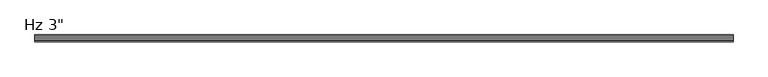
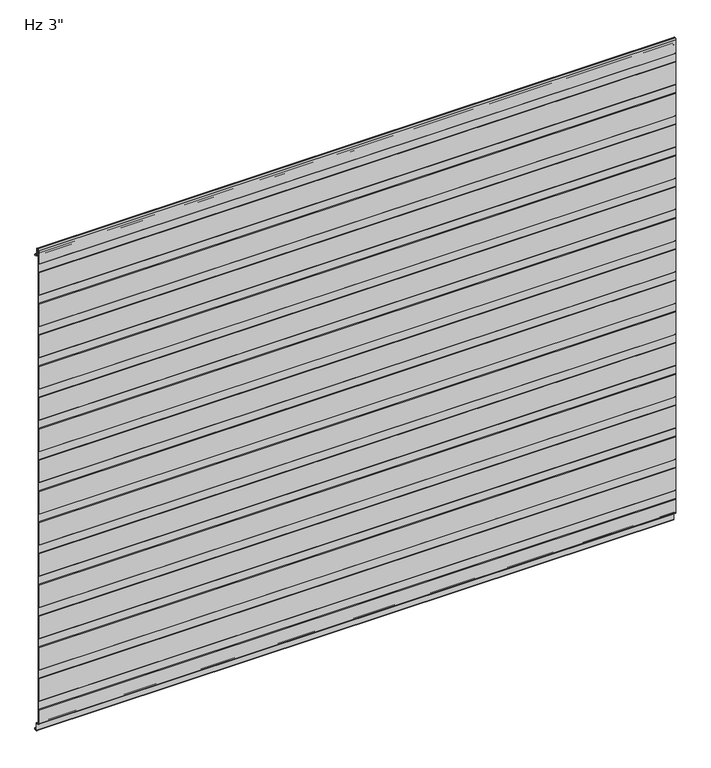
"""IFC4 building model written with IfcOpenShell, lengths in millimetres: plate geometry."""

from ifc_helpers import new_model, si_unit, frame, origin, place, context, project, spatial, polyline, circle_curve, source, transform, mapped, element, save
from ifc_brep_helpers import plane_surface, cylinder_surface, revolved_surface, advanced_brep


def plate_2009623e(model_context):
    return source(origin(), model_context, "Body", "AdvancedBrep", [
        advanced_brep(
        [(-730.0, -76.2, 966.9508592), (-730.0, -76.2, 1021.5303137), (-730.0, -75.0088405, 1022.6028385), (-730.0, -75.0088405, 1041.5009546), (-730.0, -76.2, 1042.5734794), (-730.0, -76.2, 1097.152934), (-730.0, -75.0088405, 1098.2254588), (-730.0, -75.0088405, 1117.1235749), (-730.0, -76.1999956, 1118.1960958), (-730.0, -76.1999956, 1150.8100652), (-730.0, -73.2227271, 1153.7873337), (-730.0, -72.1806285, 1153.7873337), (-730.0, -69.20336, 1150.8100652), (-730.0, -69.20336, 1136.6216801), (-730.0, -67.6154834, 1135.0338036), (-730.0, -63.2950653, 1135.0338036), (-730.0, -61.7065979, 1133.3929042), (-730.0, -61.7065979, 1131.0482432), (-730.0, -62.7060718, 1131.0482432), (-730.0, -62.7060718, 1133.4253365), (-730.0, -63.2950653, 1134.0338037), (-730.0, -67.6154834, 1134.0338037), (-730.0, -70.20336, 1136.6216801), (-730.0, -70.20336, 1150.8100652), (-730.0, -72.1806285, 1152.7873337), (-730.0, -73.2227271, 1152.7873337), (-730.0, -75.1999956, 1150.8100652), (-730.0, -75.1999956, 1118.6385351), (-730.0, -74.0088405, 1117.5660142), (-730.0, -74.0088405, 1097.7830195), (-730.0, -75.2, 1096.7104947), (-730.0, -75.2, 1043.0159187), (-730.0, -74.0088405, 1041.9433939), (-730.0, -74.0088405, 1022.1603992), (-730.0, -75.2, 1021.0878744), (-730.0, -75.2, 967.3932985), (-730.0, -74.0088405, 966.3207736), (-730.0, -74.0088405, 946.537779), (-730.0, -75.2, 945.4652541), (-730.0, -75.2, 891.7706782), (-730.0, -74.0088405, 890.6981534), (-730.0, -74.0088405, 870.9151587), (-730.0, -75.2, 869.8426339), (-730.0, -75.2, 816.148058), (-730.0, -74.0088405, 815.0755331), (-730.0, -74.0088405, 795.2925384), (-730.0, -75.2, 794.2200136), (-730.0, -75.2, 740.5254377), (-730.0, -74.0088405, 739.4529129), (-730.0, -74.0088405, 719.6699182), (-730.0, -75.2, 718.5973933), (-730.0, -75.2, 664.9028174), (-730.0, -74.0088405, 663.8302926), (-730.0, -74.0088405, 644.0472979), (-730.0, -75.2, 642.9747731), (-730.0, -75.2, 589.2801972), (-730.0, -74.0088405, 588.2076723), (-730.0, -74.0088405, 568.4246776), (-730.0, -75.2, 567.3521528), (-730.0, -75.2, 513.6575769), (-730.0, -74.0088405, 512.5850521), (-730.0, -74.0088405, 492.8020574), (-730.0, -75.2, 491.7295325), (-730.0, -75.2, 438.0349566), (-730.0, -74.0088405, 436.9624318), (-730.0, -74.0088405, 417.1794371), (-730.0, -75.2, 416.1069123), (-730.0, -75.2, 362.4123364), (-730.0, -74.0088405, 361.3398115), (-730.0, -74.0088405, 341.5568169), (-730.0, -75.2, 340.484292), (-730.0, -75.2, 286.7897161), (-730.0, -74.0088405, 285.7171913), (-730.0, -74.0088405, 265.9341966), (-730.0, -75.2, 264.8616718), (-730.0, -75.2, 211.1670958), (-730.0, -74.0088405, 210.094571), (-730.0, -74.0088405, 190.3115763), (-730.0, -75.2, 189.2390515), (-730.0, -75.2, 135.5444756), (-730.0, -74.0088405, 134.4719507), (-730.0, -74.0088405, 114.6889561), (-730.0, -75.2, 113.6164312), (-730.0, -75.2, 59.9218553), (-730.0, -74.0088405, 58.8493305), (-730.0, -74.0088405, 39.0663358), (-730.0, -75.2, 37.993811), (-730.0, -75.2, 5.82722), (-730.0, -73.2227096, 3.8499526), (-730.0, -70.9308258, 3.8499526), (-730.0, -66.9535573, -0.1273159), (-730.0, -66.9535573, -15.7237419), (-730.0, -66.3656807, -16.3116185), (-730.0, -63.294132, -16.3116185), (-730.0, -62.7062555, -15.7237419), (-730.0, -62.7062555, -13.3687064), (-730.0, -61.7062555, -13.3687064), (-730.0, -61.7062555, -15.7237419), (-730.0, -63.294132, -17.3116185), (-730.0, -66.3656807, -17.3116185), (-730.0, -67.9535573, -15.7237419), (-730.0, -67.9535573, -0.1273159), (-730.0, -70.9308258, 2.8499526), (-730.0, -73.2227096, 2.8499526), (-730.0, -76.1999782, 5.8272193), (-730.0, -76.2, 38.4362503), (-730.0, -75.0088405, 39.5087751), (-730.0, -75.0088405, 58.4068912), (-730.0, -76.2, 59.479416), (-730.0, -76.2, 114.0588705), (-730.0, -75.0088405, 115.1313954), (-730.0, -75.0088405, 134.0295114), (-730.0, -76.2, 135.1020363), (-730.0, -76.2, 189.6814908), (-730.0, -75.0088405, 190.7540156), (-730.0, -75.0088405, 209.6521317), (-730.0, -76.2, 210.7246565), (-730.0, -76.2, 265.3041111), (-730.0, -75.0088405, 266.3766359), (-730.0, -75.0088405, 285.274752), (-730.0, -76.2, 286.3472768), (-730.0, -76.2, 340.9267313), (-730.0, -75.0088405, 341.9992562), (-730.0, -75.0088405, 360.8973722), (-730.0, -76.2, 361.9698971), (-730.0, -76.2, 416.5493516), (-730.0, -75.0088405, 417.6218764), (-730.0, -75.0088405, 436.5199925), (-730.0, -76.2, 437.5925173), (-730.0, -76.2, 492.1719719), (-730.0, -75.0088405, 493.2444967), (-730.0, -75.0088405, 512.1426127), (-730.0, -76.2, 513.2151376), (-730.0, -76.2, 567.7945921), (-730.0, -75.0088405, 568.867117), (-730.0, -75.0088405, 587.765233), (-730.0, -76.2, 588.8377578), (-730.0, -76.2, 643.4172124), (-730.0, -75.0088405, 644.4897372), (-730.0, -75.0088405, 663.3878533), (-730.0, -76.2, 664.4603781), (-730.0, -76.2, 719.0398327), (-730.0, -75.0088405, 720.1123575), (-730.0, -75.0088405, 739.0104735), (-730.0, -76.2, 740.0829984), (-730.0, -76.2, 794.6624529), (-730.0, -75.0088405, 795.7349778), (-730.0, -75.0088405, 814.6330938), (-730.0, -76.2, 815.7056186), (-730.0, -76.2, 870.2850732), (-730.0, -75.0088405, 871.357598), (-730.0, -75.0088405, 890.2557141), (-730.0, -76.2, 891.3282389), (-730.0, -76.2, 945.9076934), (-730.0, -75.0088405, 946.9802183), (-730.0, -75.0088405, 965.8783343), (730.0, -76.2, 966.9508592), (730.0, -75.0088405, 965.8783343), (730.0, -75.0088405, 946.9802183), (730.0, -76.2, 945.9076934), (730.0, -76.2, 891.3282389), (730.0, -75.0088405, 890.2557141), (730.0, -75.0088405, 871.357598), (730.0, -76.2, 870.2850732), (730.0, -76.2, 815.7056186), (730.0, -75.0088405, 814.6330938), (730.0, -75.0088405, 795.7349778), (730.0, -76.2, 794.6624529), (730.0, -76.2, 740.0829984), (730.0, -75.0088405, 739.0104735), (730.0, -75.0088405, 720.1123575), (730.0, -76.2, 719.0398327), (730.0, -76.2, 664.4603781), (730.0, -75.0088405, 663.3878533), (730.0, -75.0088405, 644.4897372), (730.0, -76.2, 643.4172124), (730.0, -76.2, 588.8377578), (730.0, -75.0088405, 587.765233), (730.0, -75.0088405, 568.867117), (730.0, -76.2, 567.7945921), (730.0, -76.2, 513.2151376), (730.0, -75.0088405, 512.1426127), (730.0, -75.0088405, 493.2444967), (730.0, -76.2, 492.1719719), (730.0, -76.2, 437.5925173), (730.0, -75.0088405, 436.5199925), (730.0, -75.0088405, 417.6218764), (730.0, -76.2, 416.5493516), (730.0, -76.2, 361.9698971), (730.0, -75.0088405, 360.8973722), (730.0, -75.0088405, 341.9992562), (730.0, -76.2, 340.9267313), (730.0, -76.2, 286.3472768), (730.0, -75.0088405, 285.274752), (730.0, -75.0088405, 266.3766359), (730.0, -76.2, 265.3041111), (730.0, -76.2, 210.7246565), (730.0, -75.0088405, 209.6521317), (730.0, -75.0088405, 190.7540156), (730.0, -76.2, 189.6814908), (730.0, -76.2, 135.1020363), (730.0, -75.0088405, 134.0295114), (730.0, -75.0088405, 115.1313954), (730.0, -76.2, 114.0588705), (730.0, -76.2, 59.479416), (730.0, -75.0088405, 58.4068912), (730.0, -75.0088405, 39.5087751), (730.0, -76.2, 38.4362503), (730.0, -76.2, 5.8272193), (730.0, -73.2227096, 2.8499526), (730.0, -70.9308258, 2.8499526), (730.0, -67.9535573, -0.1273159), (730.0, -67.9535573, -15.7237419), (730.0, -66.3656807, -17.3116185), (730.0, -63.294132, -17.3116185), (730.0, -61.7062555, -15.7237419), (730.0, -61.7062555, -13.3687064), (730.0, -62.7062555, -13.3687064), (730.0, -62.7062555, -15.7237419), (730.0, -63.294132, -16.3116185), (730.0, -66.3656807, -16.3116185), (730.0, -66.9535573, -15.7237419), (730.0, -66.9535573, -0.1273159), (730.0, -70.9308258, 3.8499526), (730.0, -73.2227096, 3.8499526), (730.0, -75.1999782, 5.82722), (730.0, -75.2, 37.993811), (730.0, -74.0088405, 39.0663358), (730.0, -74.0088405, 58.8493305), (730.0, -75.2, 59.9218553), (730.0, -75.2, 113.6164312), (730.0, -74.0088405, 114.6889561), (730.0, -74.0088405, 134.4719507), (730.0, -75.2, 135.5444756), (730.0, -75.2, 189.2390515), (730.0, -74.0088405, 190.3115763), (730.0, -74.0088405, 210.094571), (730.0, -75.2, 211.1670958), (730.0, -75.2, 264.8616718), (730.0, -74.0088405, 265.9341966), (730.0, -74.0088405, 285.7171913), (730.0, -75.2, 286.7897161), (730.0, -75.2, 340.484292), (730.0, -74.0088405, 341.5568169), (730.0, -74.0088405, 361.3398115), (730.0, -75.2, 362.4123364), (730.0, -75.2, 416.1069123), (730.0, -74.0088405, 417.1794371), (730.0, -74.0088405, 436.9624318), (730.0, -75.2, 438.0349566), (730.0, -75.2, 491.7295325), (730.0, -74.0088405, 492.8020574), (730.0, -74.0088405, 512.5850521), (730.0, -75.2, 513.6575769), (730.0, -75.2, 567.3521528), (730.0, -74.0088405, 568.4246776), (730.0, -74.0088405, 588.2076723), (730.0, -75.2, 589.2801972), (730.0, -75.2, 642.9747731), (730.0, -74.0088405, 644.0472979), (730.0, -74.0088405, 663.8302926), (730.0, -75.2, 664.9028174), (730.0, -75.2, 718.5973933), (730.0, -74.0088405, 719.6699182), (730.0, -74.0088405, 739.4529129), (730.0, -75.2, 740.5254377), (730.0, -75.2, 794.2200136), (730.0, -74.0088405, 795.2925384), (730.0, -74.0088405, 815.0755331), (730.0, -75.2, 816.148058), (730.0, -75.2, 869.8426339), (730.0, -74.0088405, 870.9151587), (730.0, -74.0088405, 890.6981534), (730.0, -75.2, 891.7706782), (730.0, -75.2, 945.4652541), (730.0, -74.0088405, 946.537779), (730.0, -74.0088405, 966.3207736), (730.0, -75.2, 967.3932985), (730.0, -75.2, 1021.0878744), (730.0, -74.0088405, 1022.1603992), (730.0, -74.0088405, 1041.9433939), (730.0, -75.2, 1043.0159187), (730.0, -75.2, 1096.7104947), (730.0, -74.0088405, 1097.7830195), (730.0, -74.0088405, 1117.5660142), (730.0, -75.1999956, 1118.6385351), (730.0, -75.1999956, 1150.8100652), (730.0, -73.2227271, 1152.7873337), (730.0, -72.1806285, 1152.7873337), (730.0, -70.20336, 1150.8100652), (730.0, -70.20336, 1136.6216801), (730.0, -67.6154834, 1134.0338036), (730.0, -63.2950653, 1134.0338037), (730.0, -62.7060718, 1133.4253365), (730.0, -62.7060718, 1131.0482432), (730.0, -61.7065979, 1131.0482432), (730.0, -61.7065979, 1133.3929042), (730.0, -63.2950653, 1135.0338037), (730.0, -67.6154834, 1135.0338036), (730.0, -69.20336, 1136.6216801), (730.0, -69.20336, 1150.8100652), (730.0, -72.1806285, 1153.7873337), (730.0, -73.2227271, 1153.7873337), (730.0, -76.1999956, 1150.8100652), (730.0, -76.1999956, 1118.1960958), (730.0, -75.0088405, 1117.1235749), (730.0, -75.0088405, 1098.2254588), (730.0, -76.2, 1097.152934), (730.0, -76.2, 1042.5734794), (730.0, -75.0088405, 1041.5009546), (730.0, -75.0088405, 1022.6028385), (730.0, -76.2, 1021.5303137)],
        [
            (0, 1),
            (1, 2),
            (2, 3),
            (3, 4),
            (4, 5),
            (5, 6),
            (6, 7),
            (7, 8),
            (8, 9),
            (9, 10, circle_curve(frame((-730.0, -73.2227271, 1150.8100652), z_axis=(-1.0, 0.0, 0.0), x_axis=(0.0, 0.0, -1.0)), 2.9772685)),
            (10, 11),
            (11, 12, circle_curve(frame((-730.0, -72.1806285, 1150.8100652), z_axis=(-1.0, 0.0, 0.0), x_axis=(0.0, 0.0, -1.0)), 2.9772685)),
            (12, 13),
            (13, 14, circle_curve(frame((-730.0, -67.6154834, 1136.6216801), z_axis=(1.0, 0.0, 0.0), x_axis=(0.0, 0.0, -1.0)), 1.5878765)),
            (14, 15),
            (15, 16, circle_curve(frame((-730.0, -63.2950653, 1133.4444985), z_axis=(-1.0, 0.0, 0.0), x_axis=(0.0, 0.0, -1.0)), 1.5893052)),
            (16, 17),
            (17, 18),
            (18, 19),
            (19, 20, circle_curve(frame((-730.0, -63.2950653, 1133.4444985), z_axis=(1.0, 0.0, 0.0), x_axis=(0.0, 0.0, -1.0)), 0.5893052)),
            (20, 21),
            (21, 22, circle_curve(frame((-730.0, -67.6154834, 1136.6216801), z_axis=(-1.0, 0.0, 0.0), x_axis=(0.0, 0.0, -1.0)), 2.5878765)),
            (22, 23),
            (23, 24, circle_curve(frame((-730.0, -72.1806285, 1150.8100652), z_axis=(1.0, 0.0, 0.0), x_axis=(0.0, 0.0, -1.0)), 1.9772685)),
            (24, 25),
            (25, 26, circle_curve(frame((-730.0, -73.2227271, 1150.8100652), z_axis=(1.0, 0.0, 0.0), x_axis=(0.0, 0.0, -1.0)), 1.9772685)),
            (26, 27),
            (27, 28),
            (28, 29),
            (29, 30),
            (30, 31),
            (31, 32),
            (32, 33),
            (33, 34),
            (34, 35),
            (35, 36),
            (36, 37),
            (37, 38),
            (38, 39),
            (39, 40),
            (40, 41),
            (41, 42),
            (42, 43),
            (43, 44),
            (44, 45),
            (45, 46),
            (46, 47),
            (47, 48),
            (48, 49),
            (49, 50),
            (50, 51),
            (51, 52),
            (52, 53),
            (53, 54),
            (54, 55),
            (55, 56),
            (56, 57),
            (57, 58),
            (58, 59),
            (59, 60),
            (60, 61),
            (61, 62),
            (62, 63),
            (63, 64),
            (64, 65),
            (65, 66),
            (66, 67),
            (67, 68),
            (68, 69),
            (69, 70),
            (70, 71),
            (71, 72),
            (72, 73),
            (73, 74),
            (74, 75),
            (75, 76),
            (76, 77),
            (77, 78),
            (78, 79),
            (79, 80),
            (80, 81),
            (81, 82),
            (82, 83),
            (83, 84),
            (84, 85),
            (85, 86),
            (86, 87),
            (87, 88, circle_curve(frame((-730.0, -73.2227096, 5.8272212), z_axis=(1.0, 0.0, 0.0), x_axis=(0.0, 0.0, -1.0)), 1.9772685)),
            (88, 89),
            (89, 90, circle_curve(frame((-730.0, -70.9308258, -0.1273159), z_axis=(-1.0, 0.0, 0.0), x_axis=(0.0, 0.0, -1.0)), 3.9772685)),
            (90, 91),
            (91, 92, circle_curve(frame((-730.0, -66.3656807, -15.7237419), z_axis=(1.0, 0.0, 0.0), x_axis=(0.0, 0.0, -1.0)), 0.5878765)),
            (92, 93),
            (93, 94, circle_curve(frame((-730.0, -63.294132, -15.7237419), z_axis=(1.0, 0.0, 0.0), x_axis=(0.0, 0.0, -1.0)), 0.5878765)),
            (94, 95),
            (95, 96),
            (96, 97),
            (97, 98, circle_curve(frame((-730.0, -63.294132, -15.7237419), z_axis=(-1.0, 0.0, 0.0), x_axis=(0.0, 0.0, -1.0)), 1.5878765)),
            (98, 99),
            (99, 100, circle_curve(frame((-730.0, -66.3656807, -15.7237419), z_axis=(-1.0, 0.0, 0.0), x_axis=(0.0, 0.0, -1.0)), 1.5878765)),
            (100, 101),
            (101, 102, circle_curve(frame((-730.0, -70.9308258, -0.1273159), z_axis=(1.0, 0.0, 0.0), x_axis=(0.0, 0.0, -1.0)), 2.9772685)),
            (102, 103),
            (103, 104, circle_curve(frame((-730.0, -73.2227096, 5.8272211), z_axis=(-1.0, 0.0, 0.0), x_axis=(0.0, 0.0, -1.0)), 2.9772685)),
            (104, 105),
            (105, 106),
            (106, 107),
            (107, 108),
            (108, 109),
            (109, 110),
            (110, 111),
            (111, 112),
            (112, 113),
            (113, 114),
            (114, 115),
            (115, 116),
            (116, 117),
            (117, 118),
            (118, 119),
            (119, 120),
            (120, 121),
            (121, 122),
            (122, 123),
            (123, 124),
            (124, 125),
            (125, 126),
            (126, 127),
            (127, 128),
            (128, 129),
            (129, 130),
            (130, 131),
            (131, 132),
            (132, 133),
            (133, 134),
            (134, 135),
            (135, 136),
            (136, 137),
            (137, 138),
            (138, 139),
            (139, 140),
            (140, 141),
            (141, 142),
            (142, 143),
            (143, 144),
            (144, 145),
            (145, 146),
            (146, 147),
            (147, 148),
            (148, 149),
            (149, 150),
            (150, 151),
            (151, 152),
            (152, 153),
            (153, 154),
            (154, 155),
            (155, 0),
            (156, 157),
            (157, 158),
            (158, 159),
            (159, 160),
            (160, 161),
            (161, 162),
            (162, 163),
            (163, 164),
            (164, 165),
            (165, 166),
            (166, 167),
            (167, 168),
            (168, 169),
            (169, 170),
            (170, 171),
            (171, 172),
            (172, 173),
            (173, 174),
            (174, 175),
            (175, 176),
            (176, 177),
            (177, 178),
            (178, 179),
            (179, 180),
            (180, 181),
            (181, 182),
            (182, 183),
            (183, 184),
            (184, 185),
            (185, 186),
            (186, 187),
            (187, 188),
            (188, 189),
            (189, 190),
            (190, 191),
            (191, 192),
            (192, 193),
            (193, 194),
            (194, 195),
            (195, 196),
            (196, 197),
            (197, 198),
            (198, 199),
            (199, 200),
            (200, 201),
            (201, 202),
            (202, 203),
            (203, 204),
            (204, 205),
            (205, 206),
            (206, 207),
            (207, 208),
            (208, 209, circle_curve(frame((730.0, -73.2227096, 5.8272211), z_axis=(1.0, 0.0, 0.0), x_axis=(0.0, 0.0, -1.0)), 2.9772685)),
            (209, 210),
            (210, 211, circle_curve(frame((730.0, -70.9308258, -0.1273159), z_axis=(-1.0, 0.0, 0.0), x_axis=(0.0, 0.0, -1.0)), 2.9772685)),
            (211, 212),
            (212, 213, circle_curve(frame((730.0, -66.3656807, -15.7237419), z_axis=(1.0, 0.0, 0.0), x_axis=(0.0, 0.0, -1.0)), 1.5878765)),
            (213, 214),
            (214, 215, circle_curve(frame((730.0, -63.294132, -15.7237419), z_axis=(1.0, 0.0, 0.0), x_axis=(0.0, 0.0, -1.0)), 1.5878765)),
            (215, 216),
            (216, 217),
            (217, 218),
            (218, 219, circle_curve(frame((730.0, -63.294132, -15.7237419), z_axis=(-1.0, 0.0, 0.0), x_axis=(0.0, 0.0, -1.0)), 0.5878765)),
            (219, 220),
            (220, 221, circle_curve(frame((730.0, -66.3656807, -15.7237419), z_axis=(-1.0, 0.0, 0.0), x_axis=(0.0, 0.0, -1.0)), 0.5878765)),
            (221, 222),
            (222, 223, circle_curve(frame((730.0, -70.9308258, -0.1273159), z_axis=(1.0, 0.0, 0.0), x_axis=(0.0, 0.0, -1.0)), 3.9772685)),
            (223, 224),
            (224, 225, circle_curve(frame((730.0, -73.2227096, 5.8272212), z_axis=(-1.0, 0.0, 0.0), x_axis=(0.0, 0.0, -1.0)), 1.9772685)),
            (225, 226),
            (226, 227),
            (227, 228),
            (228, 229),
            (229, 230),
            (230, 231),
            (231, 232),
            (232, 233),
            (233, 234),
            (234, 235),
            (235, 236),
            (236, 237),
            (237, 238),
            (238, 239),
            (239, 240),
            (240, 241),
            (241, 242),
            (242, 243),
            (243, 244),
            (244, 245),
            (245, 246),
            (246, 247),
            (247, 248),
            (248, 249),
            (249, 250),
            (250, 251),
            (251, 252),
            (252, 253),
            (253, 254),
            (254, 255),
            (255, 256),
            (256, 257),
            (257, 258),
            (258, 259),
            (259, 260),
            (260, 261),
            (261, 262),
            (262, 263),
            (263, 264),
            (264, 265),
            (265, 266),
            (266, 267),
            (267, 268),
            (268, 269),
            (269, 270),
            (270, 271),
            (271, 272),
            (272, 273),
            (273, 274),
            (274, 275),
            (275, 276),
            (276, 277),
            (277, 278),
            (278, 279),
            (279, 280),
            (280, 281),
            (281, 282),
            (282, 283),
            (283, 284),
            (284, 285),
            (285, 286),
            (286, 287, circle_curve(frame((730.0, -73.2227271, 1150.8100652), z_axis=(-1.0, 0.0, 0.0), x_axis=(0.0, 0.0, -1.0)), 1.9772685)),
            (287, 288),
            (288, 289, circle_curve(frame((730.0, -72.1806285, 1150.8100652), z_axis=(-1.0, 0.0, 0.0), x_axis=(0.0, 0.0, -1.0)), 1.9772685)),
            (289, 290),
            (290, 291, circle_curve(frame((730.0, -67.6154834, 1136.6216801), z_axis=(1.0, 0.0, 0.0), x_axis=(0.0, 0.0, -1.0)), 2.5878765)),
            (291, 292),
            (292, 293, circle_curve(frame((730.0, -63.2950653, 1133.4444985), z_axis=(-1.0, 0.0, 0.0), x_axis=(0.0, 0.0, -1.0)), 0.5893052)),
            (293, 294),
            (294, 295),
            (295, 296),
            (296, 297, circle_curve(frame((730.0, -63.2950653, 1133.4444985), z_axis=(1.0, 0.0, 0.0), x_axis=(0.0, 0.0, -1.0)), 1.5893052)),
            (297, 298),
            (298, 299, circle_curve(frame((730.0, -67.6154834, 1136.6216801), z_axis=(-1.0, 0.0, 0.0), x_axis=(0.0, 0.0, -1.0)), 1.5878765)),
            (299, 300),
            (300, 301, circle_curve(frame((730.0, -72.1806285, 1150.8100652), z_axis=(1.0, 0.0, 0.0), x_axis=(0.0, 0.0, -1.0)), 2.9772685)),
            (301, 302),
            (302, 303, circle_curve(frame((730.0, -73.2227271, 1150.8100652), z_axis=(1.0, 0.0, 0.0), x_axis=(0.0, 0.0, -1.0)), 2.9772685)),
            (303, 304),
            (304, 305),
            (305, 306),
            (306, 307),
            (307, 308),
            (308, 309),
            (309, 310),
            (310, 311),
            (311, 156),
            (155, 157),
            (156, 0),
            (154, 158),
            (153, 159),
            (152, 160),
            (151, 161),
            (150, 162),
            (149, 163),
            (148, 164),
            (147, 165),
            (146, 166),
            (145, 167),
            (144, 168),
            (143, 169),
            (142, 170),
            (141, 171),
            (140, 172),
            (139, 173),
            (138, 174),
            (137, 175),
            (136, 176),
            (135, 177),
            (134, 178),
            (133, 179),
            (132, 180),
            (131, 181),
            (130, 182),
            (129, 183),
            (128, 184),
            (127, 185),
            (126, 186),
            (125, 187),
            (124, 188),
            (123, 189),
            (122, 190),
            (121, 191),
            (120, 192),
            (119, 193),
            (118, 194),
            (117, 195),
            (116, 196),
            (115, 197),
            (114, 198),
            (113, 199),
            (112, 200),
            (111, 201),
            (110, 202),
            (109, 203),
            (108, 204),
            (107, 205),
            (106, 206),
            (105, 207),
            (104, 208),
            (103, 209),
            (102, 210),
            (101, 211),
            (100, 212),
            (99, 213),
            (98, 214),
            (97, 215),
            (96, 216),
            (95, 217),
            (94, 218),
            (93, 219),
            (92, 220),
            (91, 221),
            (90, 222),
            (89, 223),
            (88, 224),
            (87, 225),
            (86, 226),
            (85, 227),
            (84, 228),
            (83, 229),
            (82, 230),
            (81, 231),
            (80, 232),
            (79, 233),
            (78, 234),
            (77, 235),
            (76, 236),
            (75, 237),
            (74, 238),
            (73, 239),
            (72, 240),
            (71, 241),
            (70, 242),
            (69, 243),
            (68, 244),
            (67, 245),
            (66, 246),
            (65, 247),
            (64, 248),
            (63, 249),
            (62, 250),
            (61, 251),
            (60, 252),
            (59, 253),
            (58, 254),
            (57, 255),
            (56, 256),
            (55, 257),
            (54, 258),
            (53, 259),
            (52, 260),
            (51, 261),
            (50, 262),
            (49, 263),
            (48, 264),
            (47, 265),
            (46, 266),
            (45, 267),
            (44, 268),
            (43, 269),
            (42, 270),
            (41, 271),
            (40, 272),
            (39, 273),
            (38, 274),
            (37, 275),
            (36, 276),
            (35, 277),
            (34, 278),
            (33, 279),
            (32, 280),
            (31, 281),
            (30, 282),
            (29, 283),
            (28, 284),
            (27, 285),
            (26, 286),
            (25, 287),
            (24, 288),
            (23, 289),
            (22, 290),
            (21, 291),
            (20, 292),
            (19, 293),
            (18, 294),
            (17, 295),
            (16, 296),
            (15, 297),
            (14, 298),
            (13, 299),
            (12, 300),
            (11, 301),
            (10, 302),
            (9, 303),
            (8, 304),
            (7, 305),
            (6, 306),
            (5, 307),
            (4, 308),
            (3, 309),
            (2, 310),
            (1, 311),
        ],
        [
            plane_surface(frame((-730.0, -76.2, 576.2625), z_axis=(-1.0, 0.0, 0.0), x_axis=(0.0, -1.0, 0.0))),
            plane_surface(frame((730.0, -76.2, 576.2625), z_axis=(1.0, 0.0, 0.0), x_axis=(0.0, -1.0, 0.0))),
            plane_surface(frame((-730.0, -76.2, 966.9508592), z_axis=(0.0, -0.6691306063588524, -0.7431448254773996), x_axis=(1.0, 0.0, 0.0))),
            plane_surface(frame((-730.0, -75.0088405, 965.8783343), z_axis=(0.0, -1.0, 0.0), x_axis=(1.0, 0.0, 0.0))),
            plane_surface(frame((-730.0, -75.0088405, 946.9802183), z_axis=(0.0, -0.6691306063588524, 0.7431448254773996), x_axis=(1.0, 0.0, 0.0))),
            plane_surface(frame((-730.0, -76.2, 945.9076934), z_axis=(0.0, -1.0, 0.0), x_axis=(1.0, 0.0, 0.0))),
            plane_surface(frame((-730.0, -76.2, 891.3282389), z_axis=(0.0, -0.6691306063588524, -0.7431448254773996), x_axis=(1.0, 0.0, 0.0))),
            plane_surface(frame((-730.0, -75.0088405, 890.2557141), z_axis=(0.0, -1.0, 0.0), x_axis=(1.0, 0.0, 0.0))),
            plane_surface(frame((-730.0, -75.0088405, 871.357598), z_axis=(0.0, -0.6691306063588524, 0.7431448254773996), x_axis=(1.0, 0.0, 0.0))),
            plane_surface(frame((-730.0, -76.2, 870.2850732), z_axis=(0.0, -1.0, 0.0), x_axis=(1.0, 0.0, 0.0))),
            plane_surface(frame((-730.0, -76.2, 815.7056186), z_axis=(0.0, -0.6691306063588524, -0.7431448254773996), x_axis=(1.0, 0.0, 0.0))),
            plane_surface(frame((-730.0, -75.0088405, 814.6330938), z_axis=(0.0, -1.0, 0.0), x_axis=(1.0, 0.0, 0.0))),
            plane_surface(frame((-730.0, -75.0088405, 795.7349778), z_axis=(0.0, -0.6691306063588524, 0.7431448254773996), x_axis=(1.0, 0.0, 0.0))),
            plane_surface(frame((-730.0, -76.2, 794.6624529), z_axis=(0.0, -1.0, 0.0), x_axis=(1.0, 0.0, 0.0))),
            plane_surface(frame((-730.0, -76.2, 740.0829984), z_axis=(0.0, -0.6691306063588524, -0.7431448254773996), x_axis=(1.0, 0.0, 0.0))),
            plane_surface(frame((-730.0, -75.0088405, 739.0104735), z_axis=(0.0, -1.0, 0.0), x_axis=(1.0, 0.0, 0.0))),
            plane_surface(frame((-730.0, -75.0088405, 720.1123575), z_axis=(0.0, -0.6691306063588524, 0.7431448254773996), x_axis=(1.0, 0.0, 0.0))),
            plane_surface(frame((-730.0, -76.2, 719.0398327), z_axis=(0.0, -1.0, 0.0), x_axis=(1.0, 0.0, 0.0))),
            plane_surface(frame((-730.0, -76.2, 664.4603781), z_axis=(0.0, -0.6691306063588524, -0.7431448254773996), x_axis=(1.0, 0.0, 0.0))),
            plane_surface(frame((-730.0, -75.0088405, 663.3878533), z_axis=(0.0, -1.0, 0.0), x_axis=(1.0, 0.0, 0.0))),
            plane_surface(frame((-730.0, -75.0088405, 644.4897372), z_axis=(0.0, -0.6691306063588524, 0.7431448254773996), x_axis=(1.0, 0.0, 0.0))),
            plane_surface(frame((-730.0, -76.2, 643.4172124), z_axis=(0.0, -1.0, 0.0), x_axis=(1.0, 0.0, 0.0))),
            plane_surface(frame((-730.0, -76.2, 588.8377578), z_axis=(0.0, -0.6691306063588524, -0.7431448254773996), x_axis=(1.0, 0.0, 0.0))),
            plane_surface(frame((-730.0, -75.0088405, 587.765233), z_axis=(0.0, -1.0, 0.0), x_axis=(1.0, 0.0, 0.0))),
            plane_surface(frame((-730.0, -75.0088405, 568.867117), z_axis=(0.0, -0.6691306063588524, 0.7431448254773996), x_axis=(1.0, 0.0, 0.0))),
            plane_surface(frame((-730.0, -76.2, 567.7945921), z_axis=(0.0, -1.0, 0.0), x_axis=(1.0, 0.0, 0.0))),
            plane_surface(frame((-730.0, -76.2, 513.2151376), z_axis=(0.0, -0.6691306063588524, -0.7431448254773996), x_axis=(1.0, 0.0, 0.0))),
            plane_surface(frame((-730.0, -75.0088405, 512.1426127), z_axis=(0.0, -1.0, 0.0), x_axis=(1.0, 0.0, 0.0))),
            plane_surface(frame((-730.0, -75.0088405, 493.2444967), z_axis=(0.0, -0.6691306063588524, 0.7431448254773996), x_axis=(1.0, 0.0, 0.0))),
            plane_surface(frame((-730.0, -76.2, 492.1719719), z_axis=(0.0, -1.0, 0.0), x_axis=(1.0, 0.0, 0.0))),
            plane_surface(frame((-730.0, -76.2, 437.5925173), z_axis=(0.0, -0.6691306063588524, -0.7431448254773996), x_axis=(1.0, 0.0, 0.0))),
            plane_surface(frame((-730.0, -75.0088405, 436.5199925), z_axis=(0.0, -1.0, 0.0), x_axis=(1.0, 0.0, 0.0))),
            plane_surface(frame((-730.0, -75.0088405, 417.6218764), z_axis=(0.0, -0.6691306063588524, 0.7431448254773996), x_axis=(1.0, 0.0, 0.0))),
            plane_surface(frame((-730.0, -76.2, 416.5493516), z_axis=(0.0, -1.0, 0.0), x_axis=(1.0, 0.0, 0.0))),
            plane_surface(frame((-730.0, -76.2, 361.9698971), z_axis=(0.0, -0.6691306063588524, -0.7431448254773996), x_axis=(1.0, 0.0, 0.0))),
            plane_surface(frame((-730.0, -75.0088405, 360.8973722), z_axis=(0.0, -1.0, 0.0), x_axis=(1.0, 0.0, 0.0))),
            plane_surface(frame((-730.0, -75.0088405, 341.9992562), z_axis=(0.0, -0.6691306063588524, 0.7431448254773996), x_axis=(1.0, 0.0, 0.0))),
            plane_surface(frame((-730.0, -76.2, 340.9267313), z_axis=(0.0, -1.0, 0.0), x_axis=(1.0, 0.0, 0.0))),
            plane_surface(frame((-730.0, -76.2, 286.3472768), z_axis=(0.0, -0.6691306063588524, -0.7431448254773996), x_axis=(1.0, 0.0, 0.0))),
            plane_surface(frame((-730.0, -75.0088405, 285.274752), z_axis=(0.0, -1.0, 0.0), x_axis=(1.0, 0.0, 0.0))),
            plane_surface(frame((-730.0, -75.0088405, 266.3766359), z_axis=(0.0, -0.6691306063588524, 0.7431448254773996), x_axis=(1.0, 0.0, 0.0))),
            plane_surface(frame((-730.0, -76.2, 265.3041111), z_axis=(0.0, -1.0, 0.0), x_axis=(1.0, 0.0, 0.0))),
            plane_surface(frame((-730.0, -76.2, 210.7246565), z_axis=(0.0, -0.6691306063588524, -0.7431448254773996), x_axis=(1.0, 0.0, 0.0))),
            plane_surface(frame((-730.0, -75.0088405, 209.6521317), z_axis=(0.0, -1.0, 0.0), x_axis=(1.0, 0.0, 0.0))),
            plane_surface(frame((-730.0, -75.0088405, 190.7540156), z_axis=(0.0, -0.6691306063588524, 0.7431448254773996), x_axis=(1.0, 0.0, 0.0))),
            plane_surface(frame((-730.0, -76.2, 189.6814908), z_axis=(0.0, -1.0, 0.0), x_axis=(1.0, 0.0, 0.0))),
            plane_surface(frame((-730.0, -76.2, 135.1020363), z_axis=(0.0, -0.6691306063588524, -0.7431448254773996), x_axis=(1.0, 0.0, 0.0))),
            plane_surface(frame((-730.0, -75.0088405, 134.0295114), z_axis=(0.0, -1.0, 0.0), x_axis=(1.0, 0.0, 0.0))),
            plane_surface(frame((-730.0, -75.0088405, 115.1313954), z_axis=(0.0, -0.6691306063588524, 0.7431448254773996), x_axis=(1.0, 0.0, 0.0))),
            plane_surface(frame((-730.0, -76.2, 114.0588705), z_axis=(0.0, -1.0, 0.0), x_axis=(1.0, 0.0, 0.0))),
            plane_surface(frame((-730.0, -76.2, 59.479416), z_axis=(0.0, -0.6691306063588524, -0.7431448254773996), x_axis=(1.0, 0.0, 0.0))),
            plane_surface(frame((-730.0, -75.0088405, 58.4068912), z_axis=(0.0, -1.0, 0.0), x_axis=(1.0, 0.0, 0.0))),
            plane_surface(frame((-730.0, -75.0088405, 39.5087751), z_axis=(0.0, -0.6691306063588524, 0.7431448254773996), x_axis=(1.0, 0.0, 0.0))),
            plane_surface(frame((-730.0, -76.2, 38.4362503), z_axis=(0.0, -1.0, 0.0), x_axis=(1.0, 0.0, 0.0))),
            cylinder_surface(frame((-730.0, -73.2227096, 5.8272211), z_axis=(-1.0, 0.0, 0.0), x_axis=(0.0, 0.0, -1.0)), 2.9772685),
            plane_surface(frame((-730.0, -73.2227096, 2.8499526), z_axis=(0.0, 0.0, -1.0), x_axis=(1.0, 0.0, 0.0))),
            revolved_surface(polyline([(730.0, -70.9308258, -3.1045844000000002), (-730.0, -70.9308258, -3.1045844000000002)]), (-730.0, -70.9308258, -0.1273159), (1.0, 0.0, 0.0)),
            plane_surface(frame((-730.0, -67.9535573, -0.1273159), z_axis=(0.0, -1.0, 0.0), x_axis=(1.0, 0.0, 0.0))),
            cylinder_surface(frame((-730.0, -66.3656807, -15.7237419), z_axis=(-1.0, 0.0, 0.0), x_axis=(0.0, 0.0, -1.0)), 1.5878765),
            plane_surface(frame((-730.0, -66.3656807, -17.3116185), z_axis=(0.0, 0.0, -1.0), x_axis=(1.0, 0.0, 0.0))),
            cylinder_surface(frame((-730.0, -63.294132, -15.7237419), z_axis=(-1.0, 0.0, 0.0), x_axis=(0.0, 0.0, -1.0)), 1.5878765),
            plane_surface(frame((-730.0, -61.7062555, -15.7237419), z_axis=(0.0, 1.0, 0.0), x_axis=(1.0, 0.0, 0.0))),
            plane_surface(frame((-730.0, -61.7062555, -13.3687064), z_axis=(0.0, 0.0, 1.0), x_axis=(1.0, 0.0, 0.0))),
            plane_surface(frame((-730.0, -62.7062555, -13.3687064), z_axis=(0.0, -1.0, 0.0), x_axis=(1.0, 0.0, 0.0))),
            revolved_surface(polyline([(730.0, -63.294132, -16.3116184), (-730.0, -63.294132, -16.3116184)]), (-730.0, -63.294132, -15.7237419), (1.0, 0.0, 0.0)),
            plane_surface(frame((-730.0, -63.294132, -16.3116185), z_axis=(0.0, 0.0, 1.0), x_axis=(1.0, 0.0, 0.0))),
            revolved_surface(polyline([(730.0, -66.3656807, -16.3116184), (-730.0, -66.3656807, -16.3116184)]), (-730.0, -66.3656807, -15.7237419), (1.0, 0.0, 0.0)),
            plane_surface(frame((-730.0, -66.9535573, -15.7237419), z_axis=(0.0, 1.0, 0.0), x_axis=(1.0, 0.0, 0.0))),
            cylinder_surface(frame((-730.0, -70.9308258, -0.1273159), z_axis=(-1.0, 0.0, 0.0), x_axis=(0.0, 0.0, -1.0)), 3.9772685),
            plane_surface(frame((-730.0, -70.9308258, 3.8499526), z_axis=(0.0, 0.0, 1.0), x_axis=(1.0, 0.0, 0.0))),
            revolved_surface(polyline([(730.0, -73.2227096, 3.8499527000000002), (-730.0, -73.2227096, 3.8499527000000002)]), (-730.0, -73.2227096, 5.8272212), (1.0, 0.0, 0.0)),
            plane_surface(frame((-730.0, -75.2, 5.82722), z_axis=(0.0, 1.0, 0.0), x_axis=(1.0, 0.0, 0.0))),
            plane_surface(frame((-730.0, -75.2, 37.993811), z_axis=(0.0, 0.6691306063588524, -0.7431448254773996), x_axis=(1.0, 0.0, 0.0))),
            plane_surface(frame((-730.0, -74.0088405, 39.0663358), z_axis=(0.0, 1.0, 0.0), x_axis=(1.0, 0.0, 0.0))),
            plane_surface(frame((-730.0, -74.0088405, 58.8493305), z_axis=(0.0, 0.6691306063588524, 0.7431448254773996), x_axis=(1.0, 0.0, 0.0))),
            plane_surface(frame((-730.0, -75.2, 59.9218553), z_axis=(0.0, 1.0, 0.0), x_axis=(1.0, 0.0, 0.0))),
            plane_surface(frame((-730.0, -75.2, 113.6164312), z_axis=(0.0, 0.6691306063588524, -0.7431448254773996), x_axis=(1.0, 0.0, 0.0))),
            plane_surface(frame((-730.0, -74.0088405, 114.6889561), z_axis=(0.0, 1.0, 0.0), x_axis=(1.0, 0.0, 0.0))),
            plane_surface(frame((-730.0, -74.0088405, 134.4719507), z_axis=(0.0, 0.6691306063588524, 0.7431448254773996), x_axis=(1.0, 0.0, 0.0))),
            plane_surface(frame((-730.0, -75.2, 135.5444756), z_axis=(0.0, 1.0, 0.0), x_axis=(1.0, 0.0, 0.0))),
            plane_surface(frame((-730.0, -75.2, 189.2390515), z_axis=(0.0, 0.6691306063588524, -0.7431448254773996), x_axis=(1.0, 0.0, 0.0))),
            plane_surface(frame((-730.0, -74.0088405, 190.3115763), z_axis=(0.0, 1.0, 0.0), x_axis=(1.0, 0.0, 0.0))),
            plane_surface(frame((-730.0, -74.0088405, 210.094571), z_axis=(0.0, 0.6691306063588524, 0.7431448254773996), x_axis=(1.0, 0.0, 0.0))),
            plane_surface(frame((-730.0, -75.2, 211.1670958), z_axis=(0.0, 1.0, 0.0), x_axis=(1.0, 0.0, 0.0))),
            plane_surface(frame((-730.0, -75.2, 264.8616718), z_axis=(0.0, 0.6691306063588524, -0.7431448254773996), x_axis=(1.0, 0.0, 0.0))),
            plane_surface(frame((-730.0, -74.0088405, 265.9341966), z_axis=(0.0, 1.0, 0.0), x_axis=(1.0, 0.0, 0.0))),
            plane_surface(frame((-730.0, -74.0088405, 285.7171913), z_axis=(0.0, 0.6691306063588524, 0.7431448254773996), x_axis=(1.0, 0.0, 0.0))),
            plane_surface(frame((-730.0, -75.2, 286.7897161), z_axis=(0.0, 1.0, 0.0), x_axis=(1.0, 0.0, 0.0))),
            plane_surface(frame((-730.0, -75.2, 340.484292), z_axis=(0.0, 0.6691306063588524, -0.7431448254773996), x_axis=(1.0, 0.0, 0.0))),
            plane_surface(frame((-730.0, -74.0088405, 341.5568169), z_axis=(0.0, 1.0, 0.0), x_axis=(1.0, 0.0, 0.0))),
            plane_surface(frame((-730.0, -74.0088405, 361.3398115), z_axis=(0.0, 0.6691306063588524, 0.7431448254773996), x_axis=(1.0, 0.0, 0.0))),
            plane_surface(frame((-730.0, -75.2, 362.4123364), z_axis=(0.0, 1.0, 0.0), x_axis=(1.0, 0.0, 0.0))),
            plane_surface(frame((-730.0, -75.2, 416.1069123), z_axis=(0.0, 0.6691306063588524, -0.7431448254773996), x_axis=(1.0, 0.0, 0.0))),
            plane_surface(frame((-730.0, -74.0088405, 417.1794371), z_axis=(0.0, 1.0, 0.0), x_axis=(1.0, 0.0, 0.0))),
            plane_surface(frame((-730.0, -74.0088405, 436.9624318), z_axis=(0.0, 0.6691306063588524, 0.7431448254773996), x_axis=(1.0, 0.0, 0.0))),
            plane_surface(frame((-730.0, -75.2, 438.0349566), z_axis=(0.0, 1.0, 0.0), x_axis=(1.0, 0.0, 0.0))),
            plane_surface(frame((-730.0, -75.2, 491.7295325), z_axis=(0.0, 0.6691306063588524, -0.7431448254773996), x_axis=(1.0, 0.0, 0.0))),
            plane_surface(frame((-730.0, -74.0088405, 492.8020574), z_axis=(0.0, 1.0, 0.0), x_axis=(1.0, 0.0, 0.0))),
            plane_surface(frame((-730.0, -74.0088405, 512.5850521), z_axis=(0.0, 0.6691306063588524, 0.7431448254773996), x_axis=(1.0, 0.0, 0.0))),
            plane_surface(frame((-730.0, -75.2, 513.6575769), z_axis=(0.0, 1.0, 0.0), x_axis=(1.0, 0.0, 0.0))),
            plane_surface(frame((-730.0, -75.2, 567.3521528), z_axis=(0.0, 0.6691306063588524, -0.7431448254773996), x_axis=(1.0, 0.0, 0.0))),
            plane_surface(frame((-730.0, -74.0088405, 568.4246776), z_axis=(0.0, 1.0, 0.0), x_axis=(1.0, 0.0, 0.0))),
            plane_surface(frame((-730.0, -74.0088405, 588.2076723), z_axis=(0.0, 0.6691306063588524, 0.7431448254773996), x_axis=(1.0, 0.0, 0.0))),
            plane_surface(frame((-730.0, -75.2, 589.2801972), z_axis=(0.0, 1.0, 0.0), x_axis=(1.0, 0.0, 0.0))),
            plane_surface(frame((-730.0, -75.2, 642.9747731), z_axis=(0.0, 0.6691306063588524, -0.7431448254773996), x_axis=(1.0, 0.0, 0.0))),
            plane_surface(frame((-730.0, -74.0088405, 644.0472979), z_axis=(0.0, 1.0, 0.0), x_axis=(1.0, 0.0, 0.0))),
            plane_surface(frame((-730.0, -74.0088405, 663.8302926), z_axis=(0.0, 0.6691306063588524, 0.7431448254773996), x_axis=(1.0, 0.0, 0.0))),
            plane_surface(frame((-730.0, -75.2, 664.9028174), z_axis=(0.0, 1.0, 0.0), x_axis=(1.0, 0.0, 0.0))),
            plane_surface(frame((-730.0, -75.2, 718.5973933), z_axis=(0.0, 0.6691306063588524, -0.7431448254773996), x_axis=(1.0, 0.0, 0.0))),
            plane_surface(frame((-730.0, -74.0088405, 719.6699182), z_axis=(0.0, 1.0, 0.0), x_axis=(1.0, 0.0, 0.0))),
            plane_surface(frame((-730.0, -74.0088405, 739.4529129), z_axis=(0.0, 0.6691306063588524, 0.7431448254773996), x_axis=(1.0, 0.0, 0.0))),
            plane_surface(frame((-730.0, -75.2, 740.5254377), z_axis=(0.0, 1.0, 0.0), x_axis=(1.0, 0.0, 0.0))),
            plane_surface(frame((-730.0, -75.2, 794.2200136), z_axis=(0.0, 0.6691306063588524, -0.7431448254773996), x_axis=(1.0, 0.0, 0.0))),
            plane_surface(frame((-730.0, -74.0088405, 795.2925384), z_axis=(0.0, 1.0, 0.0), x_axis=(1.0, 0.0, 0.0))),
            plane_surface(frame((-730.0, -74.0088405, 815.0755331), z_axis=(0.0, 0.6691306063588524, 0.7431448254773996), x_axis=(1.0, 0.0, 0.0))),
            plane_surface(frame((-730.0, -75.2, 816.148058), z_axis=(0.0, 1.0, 0.0), x_axis=(1.0, 0.0, 0.0))),
            plane_surface(frame((-730.0, -75.2, 869.8426339), z_axis=(0.0, 0.6691306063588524, -0.7431448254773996), x_axis=(1.0, 0.0, 0.0))),
            plane_surface(frame((-730.0, -74.0088405, 870.9151587), z_axis=(0.0, 1.0, 0.0), x_axis=(1.0, 0.0, 0.0))),
            plane_surface(frame((-730.0, -74.0088405, 890.6981534), z_axis=(0.0, 0.6691306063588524, 0.7431448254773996), x_axis=(1.0, 0.0, 0.0))),
            plane_surface(frame((-730.0, -75.2, 891.7706782), z_axis=(0.0, 1.0, 0.0), x_axis=(1.0, 0.0, 0.0))),
            plane_surface(frame((-730.0, -75.2, 945.4652541), z_axis=(0.0, 0.6691306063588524, -0.7431448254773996), x_axis=(1.0, 0.0, 0.0))),
            plane_surface(frame((-730.0, -74.0088405, 946.537779), z_axis=(0.0, 1.0, 0.0), x_axis=(1.0, 0.0, 0.0))),
            plane_surface(frame((-730.0, -74.0088405, 966.3207736), z_axis=(0.0, 0.6691306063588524, 0.7431448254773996), x_axis=(1.0, 0.0, 0.0))),
            plane_surface(frame((-730.0, -75.2, 967.3932985), z_axis=(0.0, 1.0, 0.0), x_axis=(1.0, 0.0, 0.0))),
            plane_surface(frame((-730.0, -75.2, 1021.0878744), z_axis=(0.0, 0.6691306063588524, -0.7431448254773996), x_axis=(1.0, 0.0, 0.0))),
            plane_surface(frame((-730.0, -74.0088405, 1022.1603992), z_axis=(0.0, 1.0, 0.0), x_axis=(1.0, 0.0, 0.0))),
            plane_surface(frame((-730.0, -74.0088405, 1041.9433939), z_axis=(0.0, 0.6691306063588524, 0.7431448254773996), x_axis=(1.0, 0.0, 0.0))),
            plane_surface(frame((-730.0, -75.2, 1043.0159187), z_axis=(0.0, 1.0, 0.0), x_axis=(1.0, 0.0, 0.0))),
            plane_surface(frame((-730.0, -75.2, 1096.7104947), z_axis=(0.0, 0.6691306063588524, -0.7431448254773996), x_axis=(1.0, 0.0, 0.0))),
            plane_surface(frame((-730.0, -74.0088405, 1097.7830195), z_axis=(0.0, 1.0, 0.0), x_axis=(1.0, 0.0, 0.0))),
            plane_surface(frame((-730.0, -74.0088405, 1117.5660142), z_axis=(0.0, 0.6691306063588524, 0.7431448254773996), x_axis=(1.0, 0.0, 0.0))),
            plane_surface(frame((-730.0, -75.1999956, 1118.6385351), z_axis=(0.0, 1.0, 0.0), x_axis=(1.0, 0.0, 0.0))),
            revolved_surface(polyline([(730.0, -73.2227271, 1148.8327967), (-730.0, -73.2227271, 1148.8327967)]), (-730.0, -73.2227271, 1150.8100652), (1.0, 0.0, 0.0)),
            plane_surface(frame((-730.0, -73.2227271, 1152.7873337), z_axis=(0.0, 0.0, -1.0), x_axis=(1.0, 0.0, 0.0))),
            revolved_surface(polyline([(730.0, -72.1806285, 1148.8327967), (-730.0, -72.1806285, 1148.8327967)]), (-730.0, -72.1806285, 1150.8100652), (1.0, 0.0, 0.0)),
            plane_surface(frame((-730.0, -70.20336, 1150.8100652), z_axis=(0.0, -1.0, 0.0), x_axis=(1.0, 0.0, 0.0))),
            cylinder_surface(frame((-730.0, -67.6154834, 1136.6216801), z_axis=(-1.0, 0.0, 0.0), x_axis=(0.0, 0.0, -1.0)), 2.5878765),
            plane_surface(frame((-730.0, -67.6154834, 1134.0338037), z_axis=(0.0, 0.0, -1.0), x_axis=(1.0, 0.0, 0.0))),
            revolved_surface(polyline([(730.0, -63.2950653, 1132.8551933), (-730.0, -63.2950653, 1132.8551933)]), (-730.0, -63.2950653, 1133.4444985), (1.0, 0.0, 0.0)),
            plane_surface(frame((-730.0, -62.7060718, 1133.4253365), z_axis=(0.0, -1.0, 0.0), x_axis=(1.0, 0.0, 0.0))),
            plane_surface(frame((-730.0, -62.7060718, 1131.0482432), z_axis=(0.0, 0.0, -1.0), x_axis=(1.0, 0.0, 0.0))),
            plane_surface(frame((-730.0, -61.7065979, 1131.0482432), z_axis=(0.0, 1.0, 0.0), x_axis=(1.0, 0.0, 0.0))),
            cylinder_surface(frame((-730.0, -63.2950653, 1133.4444985), z_axis=(-1.0, 0.0, 0.0), x_axis=(0.0, 0.0, -1.0)), 1.5893052),
            plane_surface(frame((-730.0, -63.2950653, 1135.0338036), z_axis=(0.0, 0.0, 1.0), x_axis=(1.0, 0.0, 0.0))),
            revolved_surface(polyline([(730.0, -67.6154834, 1135.0338036), (-730.0, -67.6154834, 1135.0338036)]), (-730.0, -67.6154834, 1136.6216801), (1.0, 0.0, 0.0)),
            plane_surface(frame((-730.0, -69.20336, 1136.6216801), z_axis=(0.0, 1.0, 0.0), x_axis=(1.0, 0.0, 0.0))),
            cylinder_surface(frame((-730.0, -72.1806285, 1150.8100652), z_axis=(-1.0, 0.0, 0.0), x_axis=(0.0, 0.0, -1.0)), 2.9772685),
            plane_surface(frame((-730.0, -72.1806285, 1153.7873337), z_axis=(0.0, 0.0, 1.0), x_axis=(1.0, 0.0, 0.0))),
            cylinder_surface(frame((-730.0, -73.2227271, 1150.8100652), z_axis=(-1.0, 0.0, 0.0), x_axis=(0.0, 0.0, -1.0)), 2.9772685),
            plane_surface(frame((-730.0, -76.1999956, 1150.8100652), z_axis=(0.0, -1.0, 0.0), x_axis=(1.0, 0.0, 0.0))),
            plane_surface(frame((-730.0, -76.1999956, 1118.1960958), z_axis=(0.0, -0.6691306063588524, -0.7431448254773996), x_axis=(1.0, 0.0, 0.0))),
            plane_surface(frame((-730.0, -75.0088405, 1117.1235749), z_axis=(0.0, -1.0, 0.0), x_axis=(1.0, 0.0, 0.0))),
            plane_surface(frame((-730.0, -75.0088405, 1098.2254588), z_axis=(0.0, -0.6691306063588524, 0.7431448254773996), x_axis=(1.0, 0.0, 0.0))),
            plane_surface(frame((-730.0, -76.2, 1097.152934), z_axis=(0.0, -1.0, 0.0), x_axis=(1.0, 0.0, 0.0))),
            plane_surface(frame((-730.0, -76.2, 1042.5734794), z_axis=(0.0, -0.6691306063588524, -0.7431448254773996), x_axis=(1.0, 0.0, 0.0))),
            plane_surface(frame((-730.0, -75.0088405, 1041.5009546), z_axis=(0.0, -1.0, 0.0), x_axis=(1.0, 0.0, 0.0))),
            plane_surface(frame((-730.0, -75.0088405, 1022.6028385), z_axis=(0.0, -0.6691306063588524, 0.7431448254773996), x_axis=(1.0, 0.0, 0.0))),
            plane_surface(frame((-730.0, -76.2, 1021.5303137), z_axis=(0.0, -1.0, 0.0), x_axis=(1.0, 0.0, 0.0))),
        ],
        [
            (0, [[1, 2, 3, 4, 5, 6, 7, 8, 9, 10, 11, 12, 13, 14, 15, 16, 17, 18, 19, 20, 21, 22, 23, 24, 25, 26, 27, 28, 29, 30, 31, 32, 33, 34, 35, 36, 37, 38, 39, 40, 41, 42, 43, 44, 45, 46, 47, 48, 49, 50, 51, 52, 53, 54, 55, 56, 57, 58, 59, 60, 61, 62, 63, 64, 65, 66, 67, 68, 69, 70, 71, 72, 73, 74, 75, 76, 77, 78, 79, 80, 81, 82, 83, 84, 85, 86, 87, 88, 89, 90, 91, 92, 93, 94, 95, 96, 97, 98, 99, 100, 101, 102, 103, 104, 105, 106, 107, 108, 109, 110, 111, 112, 113, 114, 115, 116, 117, 118, 119, 120, 121, 122, 123, 124, 125, 126, 127, 128, 129, 130, 131, 132, 133, 134, 135, 136, 137, 138, 139, 140, 141, 142, 143, 144, 145, 146, 147, 148, 149, 150, 151, 152, 153, 154, 155, 156]]),
            (1, [[157, 158, 159, 160, 161, 162, 163, 164, 165, 166, 167, 168, 169, 170, 171, 172, 173, 174, 175, 176, 177, 178, 179, 180, 181, 182, 183, 184, 185, 186, 187, 188, 189, 190, 191, 192, 193, 194, 195, 196, 197, 198, 199, 200, 201, 202, 203, 204, 205, 206, 207, 208, 209, 210, 211, 212, 213, 214, 215, 216, 217, 218, 219, 220, 221, 222, 223, 224, 225, 226, 227, 228, 229, 230, 231, 232, 233, 234, 235, 236, 237, 238, 239, 240, 241, 242, 243, 244, 245, 246, 247, 248, 249, 250, 251, 252, 253, 254, 255, 256, 257, 258, 259, 260, 261, 262, 263, 264, 265, 266, 267, 268, 269, 270, 271, 272, 273, 274, 275, 276, 277, 278, 279, 280, 281, 282, 283, 284, 285, 286, 287, 288, 289, 290, 291, 292, 293, 294, 295, 296, 297, 298, 299, 300, 301, 302, 303, 304, 305, 306, 307, 308, 309, 310, 311, 312]]),
            (2, [[313, -157, 314, -156]]),
            (3, [[315, -158, -313, -155]]),
            (4, [[316, -159, -315, -154]]),
            (5, [[317, -160, -316, -153]]),
            (6, [[318, -161, -317, -152]]),
            (7, [[319, -162, -318, -151]]),
            (8, [[320, -163, -319, -150]]),
            (9, [[321, -164, -320, -149]]),
            (10, [[322, -165, -321, -148]]),
            (11, [[323, -166, -322, -147]]),
            (12, [[324, -167, -323, -146]]),
            (13, [[325, -168, -324, -145]]),
            (14, [[326, -169, -325, -144]]),
            (15, [[327, -170, -326, -143]]),
            (16, [[328, -171, -327, -142]]),
            (17, [[329, -172, -328, -141]]),
            (18, [[330, -173, -329, -140]]),
            (19, [[331, -174, -330, -139]]),
            (20, [[332, -175, -331, -138]]),
            (21, [[333, -176, -332, -137]]),
            (22, [[334, -177, -333, -136]]),
            (23, [[335, -178, -334, -135]]),
            (24, [[336, -179, -335, -134]]),
            (25, [[337, -180, -336, -133]]),
            (26, [[338, -181, -337, -132]]),
            (27, [[339, -182, -338, -131]]),
            (28, [[340, -183, -339, -130]]),
            (29, [[341, -184, -340, -129]]),
            (30, [[342, -185, -341, -128]]),
            (31, [[343, -186, -342, -127]]),
            (32, [[344, -187, -343, -126]]),
            (33, [[345, -188, -344, -125]]),
            (34, [[346, -189, -345, -124]]),
            (35, [[347, -190, -346, -123]]),
            (36, [[348, -191, -347, -122]]),
            (37, [[349, -192, -348, -121]]),
            (38, [[350, -193, -349, -120]]),
            (39, [[351, -194, -350, -119]]),
            (40, [[352, -195, -351, -118]]),
            (41, [[353, -196, -352, -117]]),
            (42, [[354, -197, -353, -116]]),
            (43, [[355, -198, -354, -115]]),
            (44, [[356, -199, -355, -114]]),
            (45, [[357, -200, -356, -113]]),
            (46, [[358, -201, -357, -112]]),
            (47, [[359, -202, -358, -111]]),
            (48, [[360, -203, -359, -110]]),
            (49, [[361, -204, -360, -109]]),
            (50, [[362, -205, -361, -108]]),
            (51, [[363, -206, -362, -107]]),
            (52, [[364, -207, -363, -106]]),
            (53, [[365, -208, -364, -105]]),
            (54, [[366, -209, -365, -104]]),
            (55, [[367, -210, -366, -103]]),
            (56, [[368, -211, -367, -102]]),
            (57, [[369, -212, -368, -101]]),
            (58, [[370, -213, -369, -100]]),
            (59, [[371, -214, -370, -99]]),
            (60, [[372, -215, -371, -98]]),
            (61, [[373, -216, -372, -97]]),
            (62, [[374, -217, -373, -96]]),
            (63, [[375, -218, -374, -95]]),
            (64, [[376, -219, -375, -94]]),
            (65, [[377, -220, -376, -93]]),
            (66, [[378, -221, -377, -92]]),
            (67, [[379, -222, -378, -91]]),
            (68, [[380, -223, -379, -90]]),
            (69, [[381, -224, -380, -89]]),
            (70, [[382, -225, -381, -88]]),
            (71, [[383, -226, -382, -87]]),
            (72, [[384, -227, -383, -86]]),
            (73, [[385, -228, -384, -85]]),
            (74, [[386, -229, -385, -84]]),
            (75, [[387, -230, -386, -83]]),
            (76, [[388, -231, -387, -82]]),
            (77, [[389, -232, -388, -81]]),
            (78, [[390, -233, -389, -80]]),
            (79, [[391, -234, -390, -79]]),
            (80, [[392, -235, -391, -78]]),
            (81, [[393, -236, -392, -77]]),
            (82, [[394, -237, -393, -76]]),
            (83, [[395, -238, -394, -75]]),
            (84, [[396, -239, -395, -74]]),
            (85, [[397, -240, -396, -73]]),
            (86, [[398, -241, -397, -72]]),
            (87, [[399, -242, -398, -71]]),
            (88, [[400, -243, -399, -70]]),
            (89, [[401, -244, -400, -69]]),
            (90, [[402, -245, -401, -68]]),
            (91, [[403, -246, -402, -67]]),
            (92, [[404, -247, -403, -66]]),
            (93, [[405, -248, -404, -65]]),
            (94, [[406, -249, -405, -64]]),
            (95, [[407, -250, -406, -63]]),
            (96, [[408, -251, -407, -62]]),
            (97, [[409, -252, -408, -61]]),
            (98, [[410, -253, -409, -60]]),
            (99, [[411, -254, -410, -59]]),
            (100, [[412, -255, -411, -58]]),
            (101, [[413, -256, -412, -57]]),
            (102, [[414, -257, -413, -56]]),
            (103, [[415, -258, -414, -55]]),
            (104, [[416, -259, -415, -54]]),
            (105, [[417, -260, -416, -53]]),
            (106, [[418, -261, -417, -52]]),
            (107, [[419, -262, -418, -51]]),
            (108, [[420, -263, -419, -50]]),
            (109, [[421, -264, -420, -49]]),
            (110, [[422, -265, -421, -48]]),
            (111, [[423, -266, -422, -47]]),
            (112, [[424, -267, -423, -46]]),
            (113, [[425, -268, -424, -45]]),
            (114, [[426, -269, -425, -44]]),
            (115, [[427, -270, -426, -43]]),
            (116, [[428, -271, -427, -42]]),
            (117, [[429, -272, -428, -41]]),
            (118, [[430, -273, -429, -40]]),
            (119, [[431, -274, -430, -39]]),
            (120, [[432, -275, -431, -38]]),
            (121, [[433, -276, -432, -37]]),
            (122, [[434, -277, -433, -36]]),
            (123, [[435, -278, -434, -35]]),
            (124, [[436, -279, -435, -34]]),
            (125, [[437, -280, -436, -33]]),
            (126, [[438, -281, -437, -32]]),
            (127, [[439, -282, -438, -31]]),
            (128, [[440, -283, -439, -30]]),
            (129, [[441, -284, -440, -29]]),
            (130, [[442, -285, -441, -28]]),
            (131, [[443, -286, -442, -27]]),
            (132, [[444, -287, -443, -26]]),
            (133, [[445, -288, -444, -25]]),
            (134, [[446, -289, -445, -24]]),
            (135, [[447, -290, -446, -23]]),
            (136, [[448, -291, -447, -22]]),
            (137, [[449, -292, -448, -21]]),
            (138, [[450, -293, -449, -20]]),
            (139, [[451, -294, -450, -19]]),
            (140, [[452, -295, -451, -18]]),
            (141, [[453, -296, -452, -17]]),
            (142, [[454, -297, -453, -16]]),
            (143, [[455, -298, -454, -15]]),
            (144, [[456, -299, -455, -14]]),
            (145, [[457, -300, -456, -13]]),
            (146, [[458, -301, -457, -12]]),
            (147, [[459, -302, -458, -11]]),
            (148, [[460, -303, -459, -10]]),
            (149, [[461, -304, -460, -9]]),
            (150, [[462, -305, -461, -8]]),
            (151, [[463, -306, -462, -7]]),
            (152, [[464, -307, -463, -6]]),
            (153, [[465, -308, -464, -5]]),
            (154, [[466, -309, -465, -4]]),
            (155, [[467, -310, -466, -3]]),
            (156, [[468, -311, -467, -2]]),
            (157, [[-314, -312, -468, -1]]),
        ],
    ),
    ])


if __name__ == "__main__":
    model = new_model("IFC4")
    model_context = context("Model", 3, world=origin())
    ifc_project = project(units=[si_unit("LENGTHUNIT", "METRE", prefix="MILLI")], contexts=[model_context])
    site = spatial("IfcSite", under=ifc_project)
    building = spatial("IfcBuilding", under=site)
    placement = place(None, origin())
    plate_shape = plate_2009623e(model_context)
    element("IfcPlate", 1, ObjectType="KIP-SLI-FLI-R19-CP-Hz-SL_SL : Hz 3\"", at=placement, inside=building, context=model_context, shape_type="MappedRepresentation", body=[
        mapped(plate_shape, transform((0.0, 0.0, 0.0), x_axis=(1.0, 0.0, 0.0), y_axis=(0.0, 1.0, 0.0), z_axis=(0.0, 0.0, 1.0))),
    ])
    save(model, "model.ifc")
